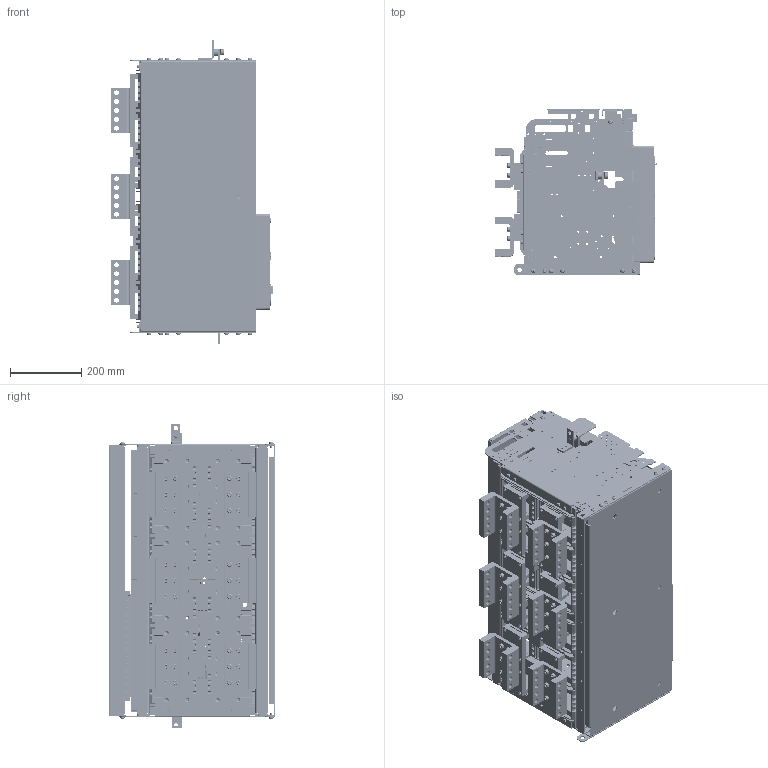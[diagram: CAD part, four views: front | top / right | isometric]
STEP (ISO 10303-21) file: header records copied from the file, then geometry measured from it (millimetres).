
FILE_DESCRIPTION((''),'2;1');
FILE_NAME('HG_23_D403H_ASM_ASM','2019-03-27T',('HHI'),(''),'PRO/ENGINEER BY PARAMETRIC TECHNOLOGY CORPORATION, 2012453','PRO/ENGINEER BY PARAMETRIC TECHNOLOGY CORPORATION, 2012453','');
FILE_SCHEMA(('CONFIG_CONTROL_DESIGN'));
Products named in the file (55): 3AT-03371_2; 1AT-00887S02_ASM_3_ASM; 3AT-04942_2; ACB_P_PH_SCREW_M6_L12_SW_2; 3AT-03372_2; 1AT-00888S02_ASM_3_ASM; 3AT-04944_2; CONTROL_JACK_FOR_CRADLE_2; 9239000363_ASM_4_ASM; 1AT-00880S07_ASM_3_ASM; 3AT-05053_2; 4AT-06870_2; 3AT-05054_ASM_2_ASM; 1AT-00751_AF0_2; HEX_NUT_M6_6; 1AT-01050_ASM_2_ASM; 3AT-05055_2; 3AT-05056_ASM_2_ASM; ACB_HEX_BOLT_M6_18_SW_2; 3AT-05062_2; 3AT-05305_2; 3AT-05283_ASM_2_ASM; 3AT-05307_2; 3AT-04102S03_1; 3AT-05285_ASM_1_ASM; 3AT-05282S01_1; ACB_HEX_BOLT_M8_L20_SW_2; U_ARC_SHIELD_633_1; PRT0419; PRT0420; PRT0421; PRT0422; ASM0111_ASM; PRT0423; PRT0424; ASM0112_ASM; PRT0425; SC_DR_DEVICE_COVER2_35; SC_DR_LOCK_PUSH_BUTTON_35; SC_MANUAL_POSITION_LOCK_35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
Assembly tree (185 placements, depth 6):
  HG_23_D403H_ASM_ASM
    D403H_ASM_3_ASM
      1AT-00887S02_ASM_3_ASM
        3AT-03371_2
      3AT-04942_2
      ACB_P_PH_SCREW_M6_L12_SW_2  x14
      1AT-00888S02_ASM_3_ASM
        3AT-03372_2
      1AT-00880S07_ASM_3_ASM
        3AT-04944_2
        9239000363_ASM_4_ASM
          CONTROL_JACK_FOR_CRADLE_2
      3AT-05054_ASM_2_ASM
        3AT-05053_2
        4AT-06870_2  x8
      1AT-01050_ASM_2_ASM  x2
        1AT-00751_AF0_2
        HEX_NUT_M6_6
      3AT-05056_ASM_2_ASM
        3AT-05055_2
        4AT-06870_2  x6
      ACB_HEX_BOLT_M6_18_SW_2  x8
      3AT-05062_2  x24
      3AT-05283_ASM_2_ASM  x4
        3AT-05305_2
      3AT-05285_ASM_1_ASM  x2
        3AT-05307_2
        3AT-04102S03_1
      3AT-05282S01_1  x6
      ACB_HEX_BOLT_M8_L20_SW_2  x36
      U_ARC_SHIELD_633_1
      ASM0111_ASM
        PRT0419
        PRT0420
        PRT0421
        PRT0422
      ASM0112_ASM
        PRT0423
        PRT0424
      COVER_633_ASM_1_ASM
        ASM0113_ASM
          PRT0425
          DR_COVER_SAMPLE_ASM_36_ASM
            SC_DR_DEVICE_COVER2_35
            SC_DR_LOCK_PUSH_BUTTON_35
            SC_MANUAL_POSITION_LOCK_35
            SC-DR-INDICATOR_SAMPLE_37
          OCR_COVER_SAMPLE_ASM_36_ASM
            MAIN_SC-OCR-COVER-U-DD-RE_36
            PRT0427
            MAIN_SC-OCR-LOWER-COVER-RE_35
          N_CHARGE_HANDLE_32
        3AT-04830_5
    HG_FRONT_COVER_40
    4AT-06477S03
    4AT-06477S04
Bounding box: 453.03 x 466.35 x 852.9 mm (x, y, z)
Volume: 12489812.5 mm3; surface area: 6034731.2 mm2
Topology: 201 solids, 314 shells, 21606 faces, 61202 edges, 39667 vertices
Faces by surface type: plane 14919, cylinder 5000, cone 706, torus 415, sphere 242, bspline 183, extrusion 141
Entity records: 508991 total; most frequent: CARTESIAN_POINT 97657, ORIENTED_EDGE 88110, DIRECTION 81258, EDGE_CURVE 44233, VECTOR 36486, LINE 36345, VERTEX_POINT 28884, AXIS2_PLACEMENT_3D 22386
